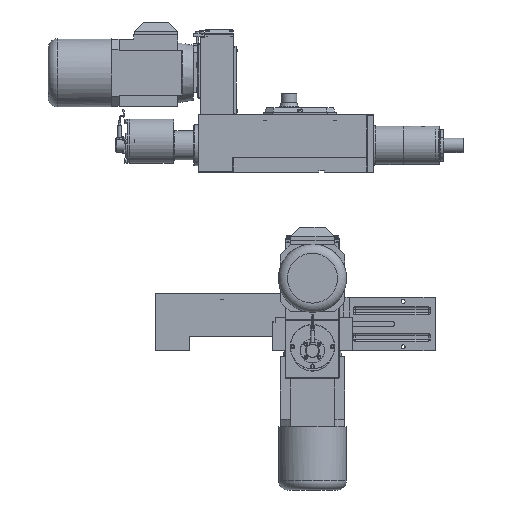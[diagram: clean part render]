
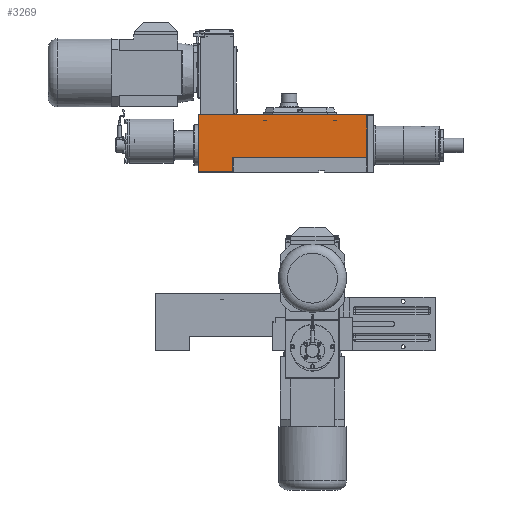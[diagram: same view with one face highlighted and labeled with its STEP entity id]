
A CAD part, front view. The second image highlights one B-rep face of the part: STEP entity #3269.
In plain terms, the highlighted planar face has unit normal (0, -1, 0).
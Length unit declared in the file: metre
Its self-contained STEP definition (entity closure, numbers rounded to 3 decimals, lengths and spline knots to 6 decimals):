
#3269 = ADVANCED_FACE( '', ( #5186 ), #5187, .T. );
#5186 = FACE_OUTER_BOUND( '', #7952, .T. );
#5187 = PLANE( '', #7953 );
#7952 = EDGE_LOOP( '', ( #13966, #13967, #13968, #13969, #13970, #13971 ) );
#7953 = AXIS2_PLACEMENT_3D( '', #13972, #13973, #13974 );
#13966 = ORIENTED_EDGE( '', *, *, #17953, .F. );
#13967 = ORIENTED_EDGE( '', *, *, #17954, .F. );
#13968 = ORIENTED_EDGE( '', *, *, #17955, .F. );
#13969 = ORIENTED_EDGE( '', *, *, #17956, .F. );
#13970 = ORIENTED_EDGE( '', *, *, #17915, .T. );
#13971 = ORIENTED_EDGE( '', *, *, #17949, .T. );
#13972 = CARTESIAN_POINT( '', ( 0.025, -0.019444, 0. ) );
#13973 = DIRECTION( '', ( 0., -1., 0. ) );
#13974 = DIRECTION( '', ( 0., 0., -1. ) );
#17915 = EDGE_CURVE( '', #20827, #20825, #20828, .T. );
#17949 = EDGE_CURVE( '', #20825, #20884, #20887, .T. );
#17953 = EDGE_CURVE( '', #20869, #20884, #20893, .T. );
#17954 = EDGE_CURVE( '', #20875, #20869, #20894, .T. );
#17955 = EDGE_CURVE( '', #20795, #20875, #20895, .T. );
#17956 = EDGE_CURVE( '', #20827, #20795, #20896, .T. );
#20795 = VERTEX_POINT( '', #25961 );
#20825 = VERTEX_POINT( '', #26007 );
#20827 = VERTEX_POINT( '', #26010 );
#20828 = LINE( '', #26011, #26012 );
#20869 = VERTEX_POINT( '', #26067 );
#20875 = VERTEX_POINT( '', #26076 );
#20884 = VERTEX_POINT( '', #26091 );
#20887 = LINE( '', #26095, #26096 );
#20893 = LINE( '', #26104, #26105 );
#20894 = LINE( '', #26106, #26107 );
#20895 = LINE( '', #26108, #26109 );
#20896 = LINE( '', #26110, #26111 );
#25961 = CARTESIAN_POINT( '', ( -0.3465, -0.019444, 0.0005 ) );
#26007 = CARTESIAN_POINT( '', ( -0.271, -0.019444, 0.032 ) );
#26010 = CARTESIAN_POINT( '', ( -0.271, -0.019444, 0.0005 ) );
#26011 = CARTESIAN_POINT( '', ( -0.271, -0.019444, 0. ) );
#26012 = VECTOR( '', #30818, 1. );
#26067 = CARTESIAN_POINT( '', ( 0.0245, -0.019444, 0.1265 ) );
#26076 = CARTESIAN_POINT( '', ( -0.3465, -0.019444, 0.1265 ) );
#26091 = CARTESIAN_POINT( '', ( 0.0245, -0.019444, 0.032 ) );
#26095 = CARTESIAN_POINT( '', ( -0.049, -0.019444, 0.032 ) );
#26096 = VECTOR( '', #30870, 1. );
#26104 = CARTESIAN_POINT( '', ( 0.0245, -0.019444, 0. ) );
#26105 = VECTOR( '', #30876, 1. );
#26106 = CARTESIAN_POINT( '', ( -0.068, -0.019444, 0.1265 ) );
#26107 = VECTOR( '', #30877, 1. );
#26108 = CARTESIAN_POINT( '', ( -0.3465, -0.019444, 0. ) );
#26109 = VECTOR( '', #30878, 1. );
#26110 = CARTESIAN_POINT( '', ( -0.068, -0.019444, 0.0005 ) );
#26111 = VECTOR( '', #30879, 1. );
#30818 = DIRECTION( '', ( 0., 0., 1. ) );
#30870 = DIRECTION( '', ( 1., 0., 0. ) );
#30876 = DIRECTION( '', ( 0., 0., -1. ) );
#30877 = DIRECTION( '', ( 1., 0., 0. ) );
#30878 = DIRECTION( '', ( 0., 0., 1. ) );
#30879 = DIRECTION( '', ( -1., 0., 0. ) );
